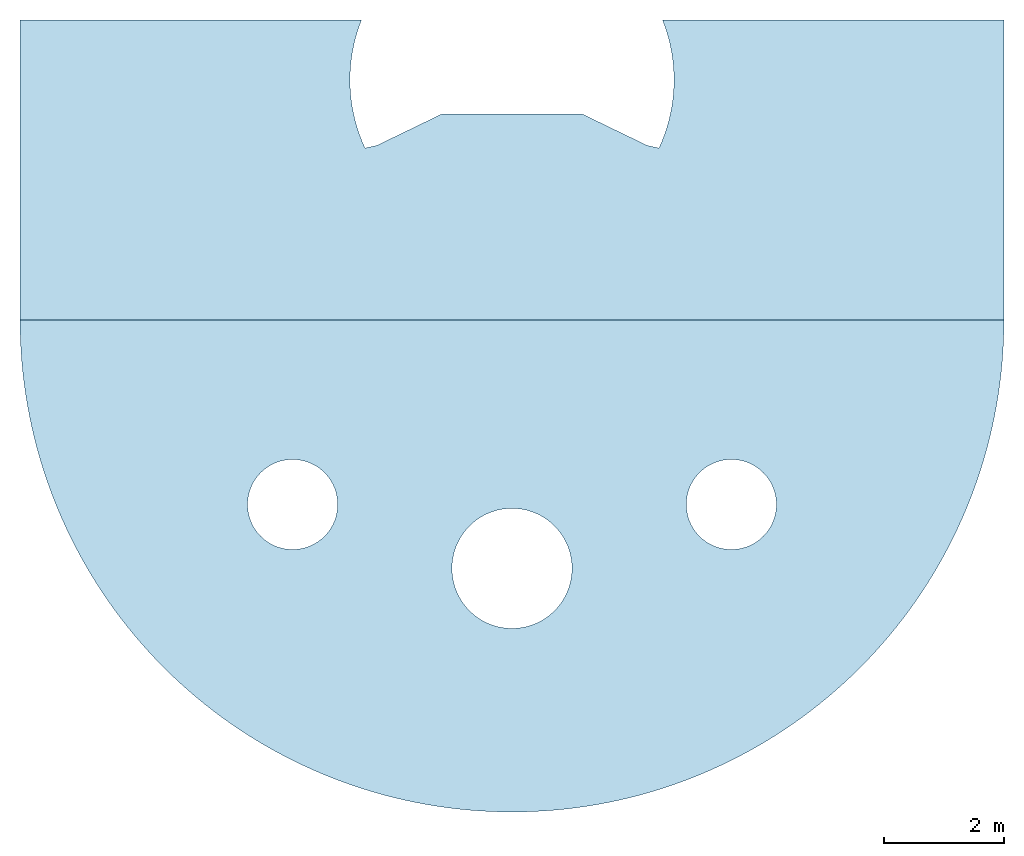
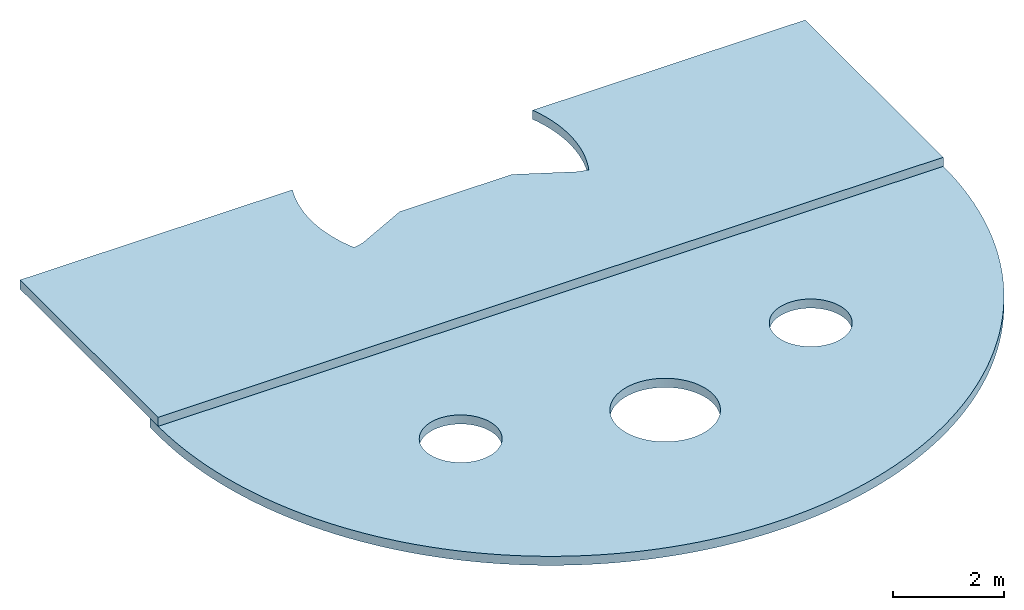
# One storey: 2 slabs.
"""IFC4 building model written with IfcOpenShell, lengths in millimetres."""

from ifc_helpers import new_model, entity, si_unit, converted_unit, derived_unit, direction, frame, origin_with_axes, place, context, subcontext, project, spatial, line, arc, indexed_curve, outline, extrude, material, layer, layer_set, layer_usage, type_object, element, save


model = new_model("IFC4")

# Units and contexts
model_context = context("Model", 3, precision=0.01, world=origin_with_axes(), true_north=direction((0.0, 1.0)))
body_context = subcontext(model_context, "Body", "Model", "MODEL_VIEW")
ifc_project = project(units=[si_unit("LENGTHUNIT", "METRE", prefix="MILLI"), si_unit("AREAUNIT", "SQUARE_METRE"), si_unit("VOLUMEUNIT", "CUBIC_METRE"), converted_unit("PLANEANGLEUNIT", "DEGREE", entity("IfcPlaneAngleMeasure", 0.0174532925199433), si_unit("PLANEANGLEUNIT", "RADIAN"), dimensions=[0, 0, 0, 0, 0, 0, 0]), converted_unit("TIMEUNIT", "Year", entity("IfcTimeMeasure", 31557600.0), si_unit("TIMEUNIT", "SECOND"), dimensions=[0, 0, 1, 0, 0, 0, 0]), si_unit("MASSUNIT", "GRAM", prefix="KILO"), si_unit("THERMODYNAMICTEMPERATUREUNIT", "DEGREE_CELSIUS"), si_unit("LUMINOUSINTENSITYUNIT", "LUMEN"), si_unit("ENERGYUNIT", "JOULE", prefix="MEGA"), derived_unit("THERMALCONDUCTANCEUNIT", [(si_unit("POWERUNIT", "WATT"), 1), (si_unit("LENGTHUNIT", "METRE"), -1), (si_unit("THERMODYNAMICTEMPERATUREUNIT", "KELVIN"), -1)]), derived_unit("SPECIFICHEATCAPACITYUNIT", [(si_unit("ENERGYUNIT", "JOULE"), 1), (si_unit("MASSUNIT", "GRAM", prefix="KILO"), -1), (si_unit("THERMODYNAMICTEMPERATUREUNIT", "KELVIN"), -1)]), derived_unit("MASSDENSITYUNIT", [(si_unit("MASSUNIT", "GRAM", prefix="KILO"), 1), (si_unit("VOLUMEUNIT", "CUBIC_METRE"), -1)])], contexts=[model_context])

# Site, building, storey
site_placement = place(None, origin_with_axes())
site = spatial("IfcSite", under=ifc_project, at=site_placement, Name="Exteriér", CompositionType="ELEMENT")
building_placement = place(site_placement, origin_with_axes())
building = spatial("IfcBuilding", under=site, at=building_placement, Name="Univerzitní lezecké centrum", CompositionType="ELEMENT")
storey_placement = place(building_placement, frame((0.0, 0.0, 9600.000000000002), z_axis=(0.0, 0.0, 1.0), x_axis=(1.0, 0.0, 0.0)))
storey = spatial("IfcBuildingStorey", under=building, at=storey_placement, Name="4.NP", CompositionType="ELEMENT", Elevation=9600.0)

# Slabs
ifc_material = material(Name="Beton vyztužený strop nad boulderem")
ifc_layer = layer(ifc_material, 200.0, ventilated="UNKNOWN", Name="Beton vyztužený strop nad boulderem")
ifc_layer_set = layer_set([ifc_layer], Name="Beton vyztužený strop nad boulderem 200")
ifc_layer_usage_1 = layer_usage(ifc_layer_set, "AXIS3", "NEGATIVE", 200.0)
slab_type = type_object("IfcSlabType", Name="Beton vyztužený strop nad boulderem 200", PredefinedType="FLOOR")
slab_1_placement = place(storey_placement, frame((-5750.148351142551, 4699.999952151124, -120.000000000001), z_axis=(0.0, 0.0, 1.0), x_axis=(1.0, 0.0, 0.0)))
element("IfcSlab", 1, at=slab_1_placement, inside=storey, type_object=slab_type, material=ifc_layer_usage_1, Name="D05", PredefinedType="FLOOR", context=body_context, shape_type="SweptSolid", body=[
    extrude(outline(indexed_curve([(0.0, 0.0), (0.0, -4999.999952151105), (16400.00006679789, -4999.999932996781), (16399.99999312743, 0.0), (10707.98724079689, 4.784889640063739e-05), (10899.00759502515, -1073.198326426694), (10650.09951274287, -2134.465631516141), (10450.09951274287, -2089.519196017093), (9370.051746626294, -1566.549958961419), (8200.000000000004, -1566.541270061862), (7029.948253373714, -1566.549958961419), (5949.900487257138, -2089.519196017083), (5749.900987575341, -2134.466712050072), (5500.992421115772, -1073.198921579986), (5692.012759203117, 4.784889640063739e-05)], segments=[line(1, 2, 3, 4, 5), arc(5, 6, 7), line(7, 8, 9), arc(9, 10, 11), line(11, 12, 13), arc(13, 14, 15), line(15, 1)])), frame((0.0, 0.0, -200.0), z_axis=(0.0, 0.0, 1.0), x_axis=(1.0, 0.0, 0.0)), (0.0, 0.0, 1.0), 200.0),
])
ifc_layer_usage_2 = layer_usage(ifc_layer_set, "AXIS3", "NEGATIVE", 200.0)
slab_2_placement = place(storey_placement, frame((-5750.14835114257, -9.361620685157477e-06, -320.0000000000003), z_axis=(0.0, 0.0, 1.0), x_axis=(1.0, 0.0, 0.0)))
element("IfcSlab", 2, at=slab_2_placement, inside=storey, type_object=slab_type, material=ifc_layer_usage_2, Name="D06", PredefinedType="FLOOR", context=body_context, shape_type="SweptSolid", body=[
    extrude(outline(indexed_curve([(0.0, 0.0), (0.0, -299.9999906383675), (2401.724394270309, -6098.275596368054), (8199.999999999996, -8499.999990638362), (13998.27560572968, -6098.275596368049), (16399.99999999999, -299.9999906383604), (16399.99999999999, 1.914149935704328e-05), (3793.605077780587, -3374.68467361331), (4013.274991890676, -2844.354587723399), (4543.605077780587, -2624.68467361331), (5073.935163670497, -2844.354587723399), (5293.605077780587, -3374.68467361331), (5073.935163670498, -3905.014759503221), (4543.605077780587, -4124.68467361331), (4013.274991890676, -3905.014759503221), (7200.000000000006, -4440.013154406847), (7492.893218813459, -3732.906373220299), (8200.000000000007, -3440.013154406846), (8907.106781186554, -3732.906373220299), (9200.000000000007, -4440.013154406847), (8907.106781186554, -5147.119935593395), (8200.000000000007, -5440.013154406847), (7492.893218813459, -5147.119935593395), (11106.19589673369, -3374.68467361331), (11325.86581084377, -2844.354587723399), (11856.19589673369, -2624.68467361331), (12386.5259826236, -2844.354587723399), (12606.19589673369, -3374.68467361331), (12386.8003440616, -3905.28912094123), (11856.19589673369, -4124.68467361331), (11325.86581084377, -3905.014759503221)], segments=[line(1, 2), arc(2, 3, 4), arc(4, 5, 6), line(6, 7, 1)]), holes=[indexed_curve([(0.0, 0.0), (0.0, -299.9999906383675), (2401.724394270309, -6098.275596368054), (8199.999999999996, -8499.999990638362), (13998.27560572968, -6098.275596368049), (16399.99999999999, -299.9999906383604), (16399.99999999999, 1.914149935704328e-05), (3793.605077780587, -3374.68467361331), (4013.274991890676, -2844.354587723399), (4543.605077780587, -2624.68467361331), (5073.935163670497, -2844.354587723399), (5293.605077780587, -3374.68467361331), (5073.935163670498, -3905.014759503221), (4543.605077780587, -4124.68467361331), (4013.274991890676, -3905.014759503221), (7200.000000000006, -4440.013154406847), (7492.893218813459, -3732.906373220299), (8200.000000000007, -3440.013154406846), (8907.106781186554, -3732.906373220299), (9200.000000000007, -4440.013154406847), (8907.106781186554, -5147.119935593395), (8200.000000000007, -5440.013154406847), (7492.893218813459, -5147.119935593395), (11106.19589673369, -3374.68467361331), (11325.86581084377, -2844.354587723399), (11856.19589673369, -2624.68467361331), (12386.5259826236, -2844.354587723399), (12606.19589673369, -3374.68467361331), (12386.8003440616, -3905.28912094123), (11856.19589673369, -4124.68467361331), (11325.86581084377, -3905.014759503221)], segments=[arc(8, 9, 10), arc(10, 11, 12), arc(12, 13, 14), arc(14, 15, 8)]), indexed_curve([(0.0, 0.0), (0.0, -299.9999906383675), (2401.724394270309, -6098.275596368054), (8199.999999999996, -8499.999990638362), (13998.27560572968, -6098.275596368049), (16399.99999999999, -299.9999906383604), (16399.99999999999, 1.914149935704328e-05), (3793.605077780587, -3374.68467361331), (4013.274991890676, -2844.354587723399), (4543.605077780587, -2624.68467361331), (5073.935163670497, -2844.354587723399), (5293.605077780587, -3374.68467361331), (5073.935163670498, -3905.014759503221), (4543.605077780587, -4124.68467361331), (4013.274991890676, -3905.014759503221), (7200.000000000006, -4440.013154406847), (7492.893218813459, -3732.906373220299), (8200.000000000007, -3440.013154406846), (8907.106781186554, -3732.906373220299), (9200.000000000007, -4440.013154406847), (8907.106781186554, -5147.119935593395), (8200.000000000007, -5440.013154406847), (7492.893218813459, -5147.119935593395), (11106.19589673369, -3374.68467361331), (11325.86581084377, -2844.354587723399), (11856.19589673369, -2624.68467361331), (12386.5259826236, -2844.354587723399), (12606.19589673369, -3374.68467361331), (12386.8003440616, -3905.28912094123), (11856.19589673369, -4124.68467361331), (11325.86581084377, -3905.014759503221)], segments=[arc(16, 17, 18), arc(18, 19, 20), arc(20, 21, 22), arc(22, 23, 16)]), indexed_curve([(0.0, 0.0), (0.0, -299.9999906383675), (2401.724394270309, -6098.275596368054), (8199.999999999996, -8499.999990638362), (13998.27560572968, -6098.275596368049), (16399.99999999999, -299.9999906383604), (16399.99999999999, 1.914149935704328e-05), (3793.605077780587, -3374.68467361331), (4013.274991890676, -2844.354587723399), (4543.605077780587, -2624.68467361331), (5073.935163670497, -2844.354587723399), (5293.605077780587, -3374.68467361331), (5073.935163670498, -3905.014759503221), (4543.605077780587, -4124.68467361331), (4013.274991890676, -3905.014759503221), (7200.000000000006, -4440.013154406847), (7492.893218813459, -3732.906373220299), (8200.000000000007, -3440.013154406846), (8907.106781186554, -3732.906373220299), (9200.000000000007, -4440.013154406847), (8907.106781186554, -5147.119935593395), (8200.000000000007, -5440.013154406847), (7492.893218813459, -5147.119935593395), (11106.19589673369, -3374.68467361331), (11325.86581084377, -2844.354587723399), (11856.19589673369, -2624.68467361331), (12386.5259826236, -2844.354587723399), (12606.19589673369, -3374.68467361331), (12386.8003440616, -3905.28912094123), (11856.19589673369, -4124.68467361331), (11325.86581084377, -3905.014759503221)], segments=[arc(24, 25, 26), arc(26, 27, 28), arc(28, 29, 30), arc(30, 31, 24)])]), frame((0.0, 0.0, -200.0), z_axis=(0.0, 0.0, 1.0), x_axis=(1.0, 0.0, 0.0)), (0.0, 0.0, 1.0), 200.0),
])

save(model, "model.ifc")
